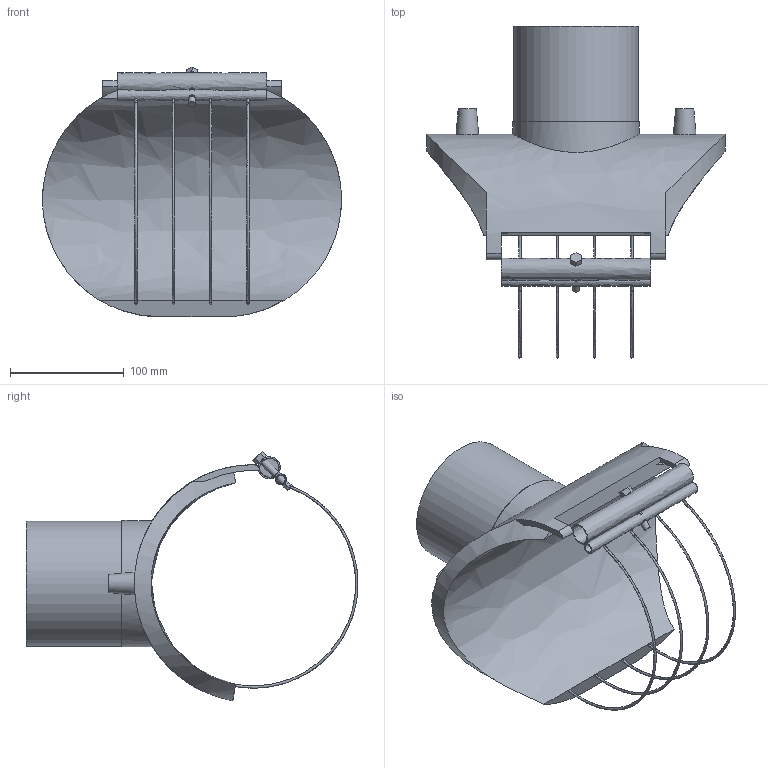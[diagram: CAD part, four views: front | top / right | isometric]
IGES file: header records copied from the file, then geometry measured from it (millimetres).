
Global section: file name: 4958X4180110T; native system: Autodesk Inventor 2021; preprocessor: unknown; author: KIM; date: 20250507.121521; units: millimetre
Bounding box: 263 x 292 x 219.5 mm (x, y, z)
Volume: 1227577.1 mm3; surface area: 234201.4 mm2
Topology: 1 solids, 1 shells, 62 faces, 187 edges, 126 vertices
Faces by surface type: bspline 62
